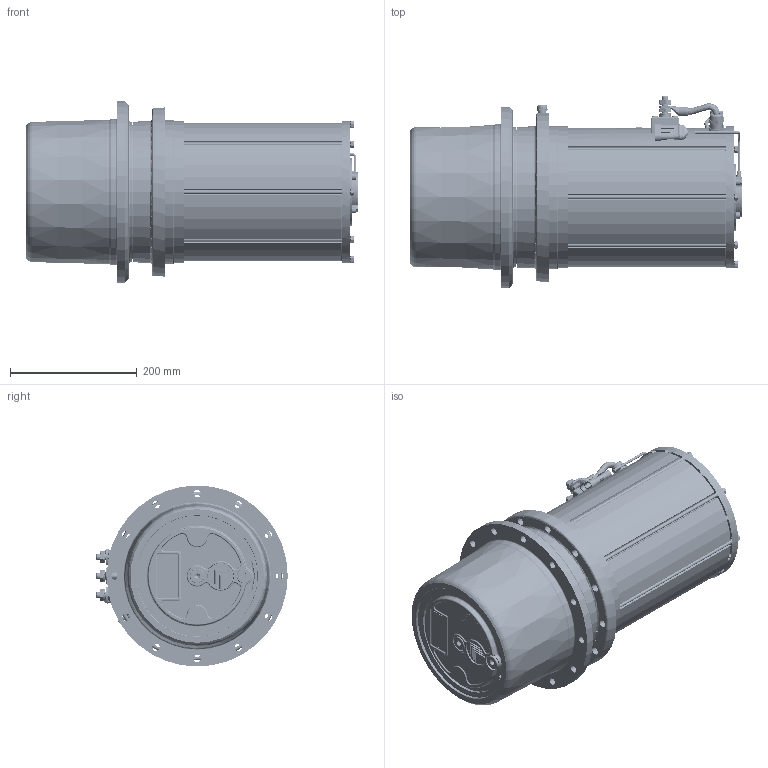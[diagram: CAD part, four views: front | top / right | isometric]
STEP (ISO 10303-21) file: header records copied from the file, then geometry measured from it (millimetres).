
FILE_DESCRIPTION(/* description */ (''),/* implementation_level */ '2;1');
FILE_NAME(/* name */ 'Z:\SITO WEB 2024\Dual Drive\MRH230\MRH230-AC.stp',/* time_stamp */ '2024-03-22T09:20:50+01:00',/* author */ ('cad3'),/* organization */ (''),/* preprocessor_version */ 'ST-DEVELOPER v18.1',/* originating_system */ 'Autodesk Inventor 2022',/* authorisation */ '');
FILE_SCHEMA (('AUTOMOTIVE_DESIGN { 1 0 10303 214 3 1 1 }'));
Products named in the file (1): MRH230-AC
Bounding box: 524.5 x 302.46 x 286 mm (x, y, z)
Volume: 7938897.9 mm3; surface area: 1448096.8 mm2
Topology: 22 solids, 82 shells, 12071 faces, 31702 edges, 20389 vertices
Faces by surface type: plane 7904, cylinder 1980, cone 967, torus 863, bspline 314, sphere 43
Full cylindrical faces by diameter (mm): 2 x2, 2.5 x6, 3.242 x3, 4 x6, 4.917 x26, 5 x7, 5.5 x5, 6 x40, 6.3 x2, 6.4 x4, 6.5 x43, 7 x7, 7.5 x1, 8.376 x2, 8.5 x1, 9.8 x9, 10 x35, 10.2 x3, 10.3 x1, 10.376 x1, 10.5 x6, 11 x26, 11.835 x12, 11.97 x2, 12 x3, 12.376 x11, 14 x2, 15 x6, 16 x5, 17.3 x4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
Entity records: 410213 total; most frequent: CARTESIAN_POINT 97800, ORIENTED_EDGE 63154, DIRECTION 62953, EDGE_CURVE 31577, AXIS2_PLACEMENT_3D 22462, VERTEX_POINT 20411, LINE 18029, VECTOR 18029
